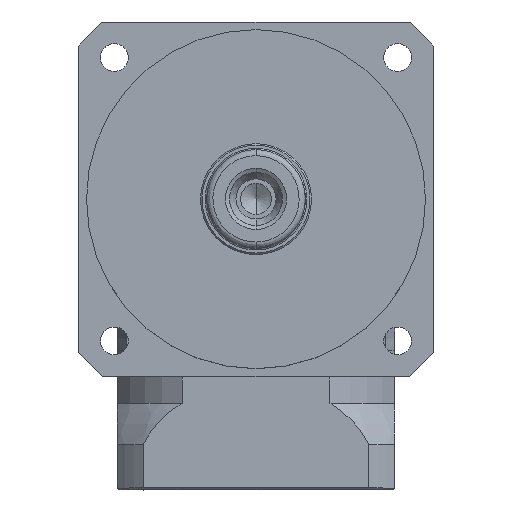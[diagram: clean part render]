
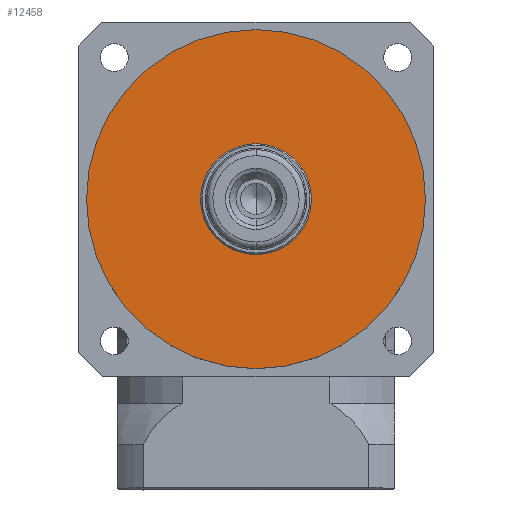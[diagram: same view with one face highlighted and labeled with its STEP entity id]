
A CAD part, top view. The second image highlights one B-rep face of the part: STEP entity #12458.
In plain terms, the highlighted planar face has unit normal (0, 0, 1).
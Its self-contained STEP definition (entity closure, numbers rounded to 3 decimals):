
#780 = FACE_OUTER_BOUND ( 'NONE', #13425, .T. ) ;
#943 = AXIS2_PLACEMENT_3D ( 'NONE', #3415, #23762, #9411 ) ;
#1607 = DIRECTION ( 'NONE',  ( 0., 0., -1. ) ) ;
#1788 = ORIENTED_EDGE ( 'NONE', *, *, #14988, .F. ) ;
#3415 = CARTESIAN_POINT ( 'NONE',  ( 2053.694, 1555.408, 73. ) ) ;
#5335 = CARTESIAN_POINT ( 'NONE',  ( 2053.694, 1555.408, 73. ) ) ;
#6625 = EDGE_CURVE ( 'NONE', #23387, #20960, #13857, .T. ) ;
#9411 = DIRECTION ( 'NONE',  ( -1., 0., 0. ) ) ;
#9767 = AXIS2_PLACEMENT_3D ( 'NONE', #5335, #1607, #22510 ) ;
#9906 = CARTESIAN_POINT ( 'NONE',  ( 2108.694, 1555.408, 73. ) ) ;
#12458 = ADVANCED_FACE ( 'N', ( #780 ), #15368, .T. ) ;
#12469 = ORIENTED_EDGE ( 'NONE', *, *, #6625, .F. ) ;
#13425 = EDGE_LOOP ( 'NONE', ( #12469, #1788 ) ) ;
#13857 = CIRCLE ( 'NONE', #943, 55. ) ;
#14285 = AXIS2_PLACEMENT_3D ( 'NONE', #21488, #25544, #23253 ) ;
#14988 = EDGE_CURVE ( 'NONE', #20960, #23387, #23163, .T. ) ;
#15368 = PLANE ( 'NONE',  #14285 ) ;
#16563 = CARTESIAN_POINT ( 'NONE',  ( 1998.694, 1555.408, 73. ) ) ;
#20960 = VERTEX_POINT ( 'NONE', #9906 ) ;
#21488 = CARTESIAN_POINT ( 'NONE',  ( 2053.694, 1555.408, 73. ) ) ;
#22510 = DIRECTION ( 'NONE',  ( -1., 0., 0. ) ) ;
#23163 = CIRCLE ( 'NONE', #9767, 55. ) ;
#23253 = DIRECTION ( 'NONE',  ( 1., 0., 0. ) ) ;
#23387 = VERTEX_POINT ( 'NONE', #16563 ) ;
#23762 = DIRECTION ( 'NONE',  ( 0., 0., -1. ) ) ;
#25544 = DIRECTION ( 'NONE',  ( 0., 0., 1. ) ) ;
